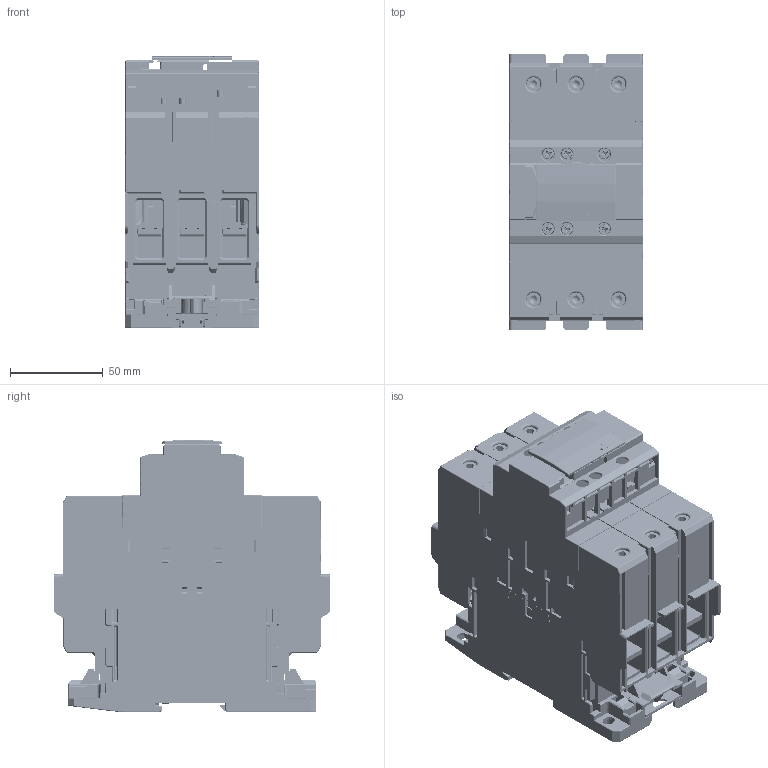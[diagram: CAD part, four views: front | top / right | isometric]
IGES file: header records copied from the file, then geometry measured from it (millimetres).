
Start section: SolidWorks IGES file using analytic representation for surfaces
Global section: file name: \\Brjgs100\dfsweg\GROUPS\BR_SC_JGS_WA_TECNICO\ENG\Usuarios\Rodrigob\conversão\contatores\Produto\CWB95...125\CWB95...125.IGS; native system: SolidWorks 2018; preprocessor: SolidWorks 2018; author: rodrigob; date: 200629.103727; units: millimetre
Bounding box: 71.8 x 148.6 x 146.95 mm (x, y, z)
Surface area: 308300.8 mm2 (no closed solid volume)
Topology: 0 solids, 0 shells, 6379 faces, 51068 edges, 50969 vertices
Faces by surface type: bspline 4569, revolution 1810
